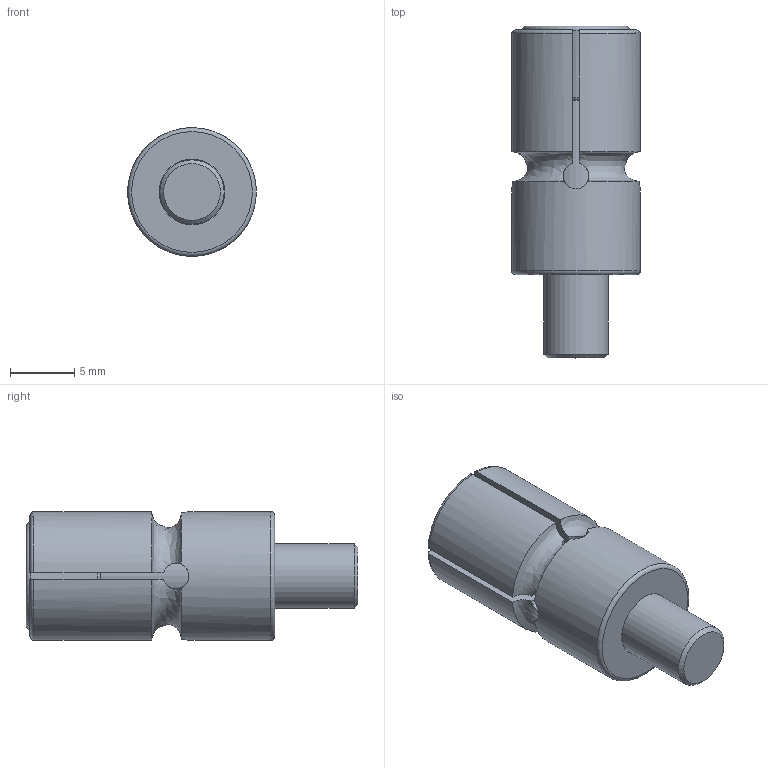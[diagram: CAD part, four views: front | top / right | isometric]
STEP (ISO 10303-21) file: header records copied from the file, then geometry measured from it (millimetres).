
FILE_DESCRIPTION(/* description */ (''),/* implementation_level */ '2;1');
FILE_NAME(/* name */ '10MM扩张销.stp',/* time_stamp */ '2023-11-23T22:08:41+08:00',/* author */ (''),/* organization */ (''),/* preprocessor_version */ 'ST-DEVELOPER v16',/* originating_system */ 'SIEMENS PLM Software NX 10.0',/* authorisation */ '');
FILE_SCHEMA (('CONFIG_CONTROL_DESIGN'));
Length unit declared in the file: millimetre
Products named in the file (1): 10MM扩张销_stp
Bounding box: 9.98 x 25.77 x 9.98 mm (x, y, z)
Volume: 1429.5 mm3; surface area: 1739.9 mm2
Topology: 2 solids, 2 shells, 57 faces, 148 edges, 96 vertices
Faces by surface type: plane 23, cylinder 17, torus 7, cone 6, bspline 4
Full cylindrical faces by diameter (mm): 5 x1, 5.1 x1, 9.98 x1
Entity records: 3296 total; most frequent: CARTESIAN_POINT 1954, ORIENTED_EDGE 272, DIRECTION 228, EDGE_CURVE 136, VERTEX_POINT 92, AXIS2_PLACEMENT_3D 86, EDGE_LOOP 68, ADVANCED_FACE 57
